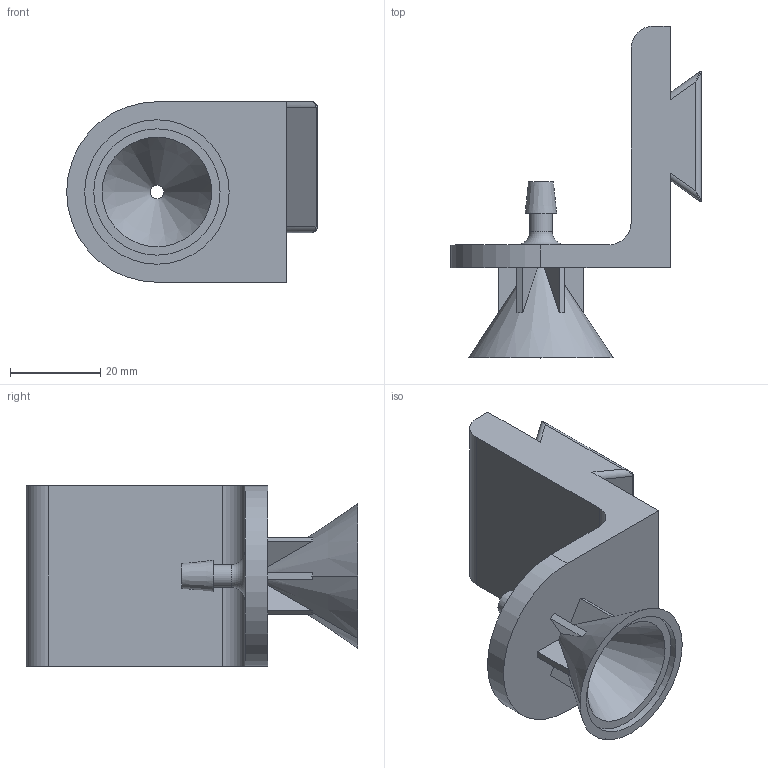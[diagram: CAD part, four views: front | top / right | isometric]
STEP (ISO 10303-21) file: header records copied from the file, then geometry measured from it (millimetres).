
FILE_DESCRIPTION(/* description */ (''),/* implementation_level */ '2;1');
FILE_NAME(/* name */ 'C:\Users\Banwz\Desktop\ВИМ\Агронабор\Агронабор Релиз\Насадки\Лейка\Лейка.stp',/* time_stamp */ '2023-05-04T00:16:22+03:00',/* author */ ('Banwz'),/* organization */ (''),/* preprocessor_version */ 'ST-DEVELOPER v18.1',/* originating_system */ 'Autodesk Inventor 2021',/* authorisation */ '');
FILE_SCHEMA (('AUTOMOTIVE_DESIGN { 1 0 10303 214 3 1 1 }'));
Length unit declared in the file: millimetre
Products named in the file (1): Лейка
Bounding box: 55.55 x 73.5 x 40 mm (x, y, z)
Volume: 33280.7 mm3; surface area: 13671 mm2
Topology: 1 solids, 1 shells, 69 faces, 169 edges, 100 vertices
Faces by surface type: plane 46, cylinder 14, cone 4, bspline 4, torus 1
Full cylindrical faces by diameter (mm): 3 x1, 5 x1, 28 x1
Entity records: 2143 total; most frequent: CARTESIAN_POINT 455, DIRECTION 344, ORIENTED_EDGE 338, EDGE_CURVE 169, LINE 126, VECTOR 126, AXIS2_PLACEMENT_3D 109, VERTEX_POINT 100
